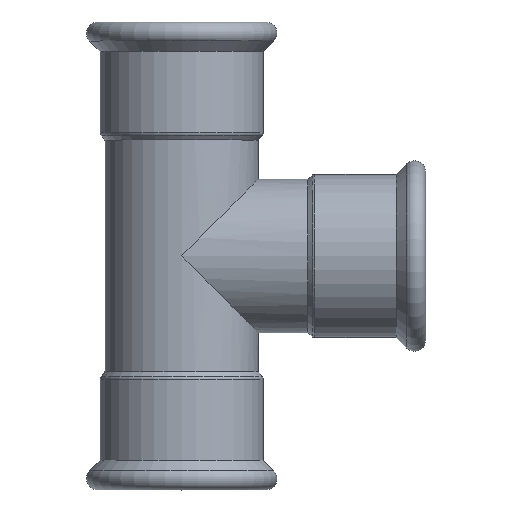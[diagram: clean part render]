
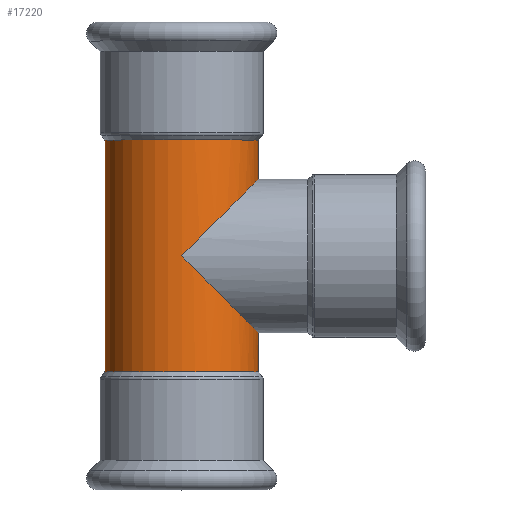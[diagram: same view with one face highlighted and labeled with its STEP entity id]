
A CAD part, top view. The second image highlights one B-rep face of the part: STEP entity #17220.
In plain terms, the highlighted cylindrical face has radius 38 mm (diameter 76 mm), a partial arc.
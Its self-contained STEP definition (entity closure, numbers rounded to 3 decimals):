
#6050=CARTESIAN_POINT('',(-58.,57.5,0.));
#6060=DIRECTION('',(0.,-1.,0.));
#6070=DIRECTION('',(1.,0.,0.));
#6080=AXIS2_PLACEMENT_3D('',#6050,#6060,#6070);
#6090=CIRCLE('',#6080,38.);
#6100=CARTESIAN_POINT('',(-20.,57.5,0.));
#6110=VERTEX_POINT('',#6100);
#6120=CARTESIAN_POINT('',(-96.,57.5,0.));
#6130=VERTEX_POINT('',#6120);
#6140=EDGE_CURVE('',#6110,#6130,#6090,.T.);
#7710=CARTESIAN_POINT('',(-58.,57.5,0.));
#7720=DIRECTION('',(0.,-1.,0.));
#7730=DIRECTION('',(1.,0.,0.));
#7740=AXIS2_PLACEMENT_3D('',#7710,#7720,#7730);
#7750=CYLINDRICAL_SURFACE('',#7740,38.);
#7760=CARTESIAN_POINT('',(-20.,57.5,0.));
#7770=DIRECTION('',(0.,-1.,0.));
#7780=VECTOR('',#7770,1.);
#7790=LINE('',#7760,#7780);
#7800=CARTESIAN_POINT('',(-20.,-38.,0.));
#7810=VERTEX_POINT('',#7800);
#7820=CARTESIAN_POINT('',(-20.,-57.5,0.));
#7830=VERTEX_POINT('',#7820);
#7840=EDGE_CURVE('',#7810,#7830,#7790,.T.);
#7860=CARTESIAN_POINT('',(-58.,0.,0.));
#7870=DIRECTION('',(-0.707,-0.707,0.));
#7880=DIRECTION('',(-0.707,0.707,0.));
#7890=AXIS2_PLACEMENT_3D('',#7860,#7870,#7880);
#7900=ELLIPSE('',#7890,53.74,38.);
#7950=CARTESIAN_POINT('',(-58.,0.,0.));
#7960=DIRECTION('',(-0.707,0.707,0.));
#7970=DIRECTION('',(-0.707,-0.707,0.));
#7980=AXIS2_PLACEMENT_3D('',#7950,#7960,#7970);
#7990=ELLIPSE('',#7980,53.74,38.);
#8000=CARTESIAN_POINT('',(-20.,38.,0.));
#8010=VERTEX_POINT('',#8000);
#8040=EDGE_CURVE('',#6110,#8010,#7790,.T.);
#8070=CARTESIAN_POINT('',(-96.,57.5,0.));
#8080=DIRECTION('',(0.,-1.,0.));
#8090=VECTOR('',#8080,1.);
#8100=LINE('',#8070,#8090);
#8110=CARTESIAN_POINT('',(-96.,-57.5,0.));
#8120=VERTEX_POINT('',#8110);
#8130=EDGE_CURVE('',#6130,#8120,#8100,.T.);
#8150=CARTESIAN_POINT('',(-58.,-57.5,0.));
#8160=DIRECTION('',(0.,-1.,0.));
#8170=DIRECTION('',(1.,0.,0.));
#8180=AXIS2_PLACEMENT_3D('',#8150,#8160,#8170);
#8190=CIRCLE('',#8180,38.);
#9820=EDGE_CURVE('',#7830,#8120,#8190,.T.);
#17090=ORIENTED_EDGE('',*,*,#9820,.F.);
#17100=ORIENTED_EDGE('',*,*,#8130,.T.);
#17110=ORIENTED_EDGE('',*,*,#6140,.T.);
#17120=ORIENTED_EDGE('',*,*,#8040,.F.);
#17130=CARTESIAN_POINT('',(-58.,0.,38.));
#17140=VERTEX_POINT('',#17130);
#17150=EDGE_CURVE('',#17140,#8010,#7990,.T.);
#17160=ORIENTED_EDGE('',*,*,#17150,.T.);
#17170=EDGE_CURVE('',#7810,#17140,#7900,.T.);
#17180=ORIENTED_EDGE('',*,*,#17170,.T.);
#17190=ORIENTED_EDGE('',*,*,#7840,.F.);
#17200=EDGE_LOOP('',(#17190,#17180,#17160,#17120,#17110,#17100,#17090));
#17210=FACE_OUTER_BOUND('',#17200,.T.);
#17220=ADVANCED_FACE('',(#17210),#7750,.T.);
